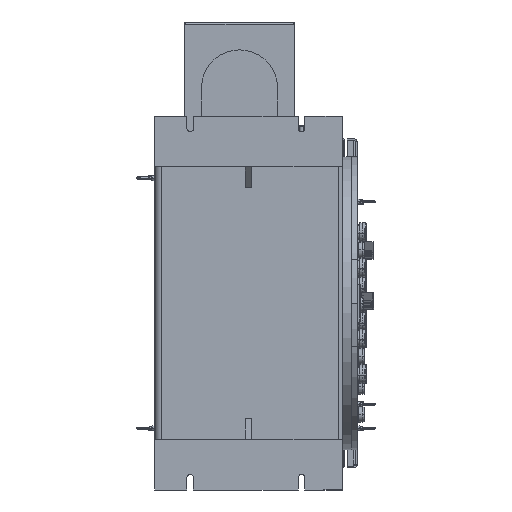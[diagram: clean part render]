
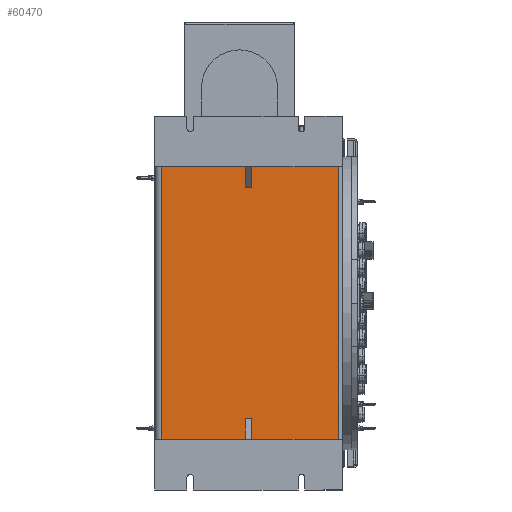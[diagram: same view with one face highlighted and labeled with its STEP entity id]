
A CAD part, front view. The second image highlights one B-rep face of the part: STEP entity #60470.
In plain terms, the highlighted planar face has unit normal (0, -1, 0).
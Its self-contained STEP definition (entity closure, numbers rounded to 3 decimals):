
#13859 = CARTESIAN_POINT ( 'NONE',  ( 13., -325., 0. ) ) ;
#21077 = CARTESIAN_POINT ( 'NONE',  ( 362., -325., -650. ) ) ;
#30068 = AXIS2_PLACEMENT_3D ( 'NONE', #68186, #37161, #170832 ) ;
#32119 = VERTEX_POINT ( 'NONE', #113085 ) ;
#37161 = DIRECTION ( 'NONE',  ( 0., 1., 0. ) ) ;
#39072 = PLANE ( 'NONE',  #30068 ) ;
#52460 = EDGE_CURVE ( 'NONE', #53371, #73051, #133213, .T. ) ;
#53371 = VERTEX_POINT ( 'NONE', #53633 ) ;
#53633 = CARTESIAN_POINT ( 'NONE',  ( 13., -325., -650. ) ) ;
#53926 = EDGE_CURVE ( 'NONE', #165440, #53371, #177215, .T. ) ;
#60470 = ADVANCED_FACE ( 'NONE', ( #164155 ), #39072, .F. ) ;
#60904 = VECTOR ( 'NONE', #181169, 1000. ) ;
#61831 = LINE ( 'NONE', #21077, #110404 ) ;
#65804 = DIRECTION ( 'NONE',  ( 0., 0., 1. ) ) ;
#68186 = CARTESIAN_POINT ( 'NONE',  ( 0., -325., -650. ) ) ;
#71381 = ORIENTED_EDGE ( 'NONE', *, *, #170426, .F. ) ;
#73051 = VERTEX_POINT ( 'NONE', #182182 ) ;
#110404 = VECTOR ( 'NONE', #65804, 1000. ) ;
#113085 = CARTESIAN_POINT ( 'NONE',  ( 362., -325., 0. ) ) ;
#117156 = VECTOR ( 'NONE', #131967, 1000. ) ;
#121501 = EDGE_LOOP ( 'NONE', ( #187533, #184891, #162657, #71381 ) ) ;
#121516 = DIRECTION ( 'NONE',  ( 0., 0., 1. ) ) ;
#131967 = DIRECTION ( 'NONE',  ( 1., 0., 0. ) ) ;
#133213 = LINE ( 'NONE', #135822, #151787 ) ;
#135791 = LINE ( 'NONE', #13859, #117156 ) ;
#135822 = CARTESIAN_POINT ( 'NONE',  ( 13., -325., -650. ) ) ;
#149869 = EDGE_CURVE ( 'NONE', #165440, #32119, #61831, .T. ) ;
#151787 = VECTOR ( 'NONE', #121516, 1000. ) ;
#162657 = ORIENTED_EDGE ( 'NONE', *, *, #149869, .T. ) ;
#164155 = FACE_OUTER_BOUND ( 'NONE', #121501, .T. ) ;
#165440 = VERTEX_POINT ( 'NONE', #179904 ) ;
#170426 = EDGE_CURVE ( 'NONE', #73051, #32119, #135791, .T. ) ;
#170832 = DIRECTION ( 'NONE',  ( 0., 0., 1. ) ) ;
#177215 = LINE ( 'NONE', #191003, #60904 ) ;
#179904 = CARTESIAN_POINT ( 'NONE',  ( 362., -325., -650. ) ) ;
#181169 = DIRECTION ( 'NONE',  ( -1., 0., 0. ) ) ;
#182182 = CARTESIAN_POINT ( 'NONE',  ( 13., -325., 0. ) ) ;
#184891 = ORIENTED_EDGE ( 'NONE', *, *, #53926, .F. ) ;
#187533 = ORIENTED_EDGE ( 'NONE', *, *, #52460, .F. ) ;
#191003 = CARTESIAN_POINT ( 'NONE',  ( 8., -325., -650. ) ) ;
